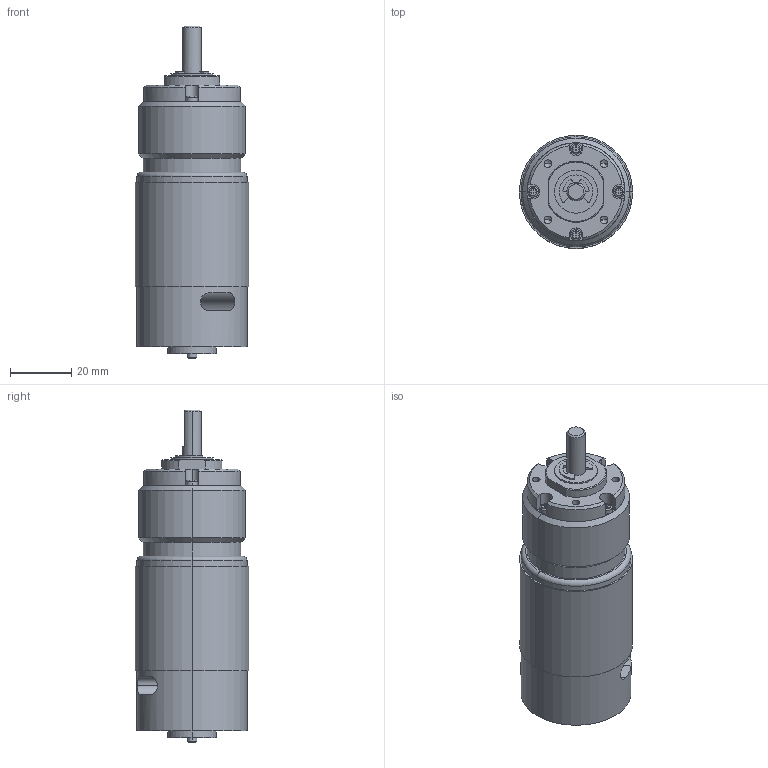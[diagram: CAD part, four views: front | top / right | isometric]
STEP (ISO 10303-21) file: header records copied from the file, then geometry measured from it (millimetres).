
FILE_DESCRIPTION((''),' ');
FILE_NAME('DSMP360_2_03.05.2016.stp',' ',('R. Lindner'),('MSW GmbH'),' ','ACIS 14.0',' ');
FILE_SCHEMA(('automotive_design'));
Length unit declared in the file: inch
Products named in the file (3): DSMP360_-00;M2 Á³¯¾¤Õ1; DSMP360_01&02-°¨¹F;¶ñ®Æ-¦ùªø2; DSMP360_01&02-°¨¹F;°£®Æ-¦ùªø1
Bounding box: 37 x 37 x 108.51 mm (x, y, z)
Volume: 83814.7 mm3; surface area: 23828 mm2
Topology: 3 solids, 3 shells, 237 faces, 594 edges, 375 vertices
Faces by surface type: cylinder 111, plane 85, cone 29, torus 12
Entity records: 9229 total; most frequent: CARTESIAN_POINT 1469, DIRECTION 1295, ORIENTED_EDGE 1156, EDGE_CURVE 578, AXIS2_PLACEMENT_3D 499, VERTEX_POINT 375, LINE 297, VECTOR 297
